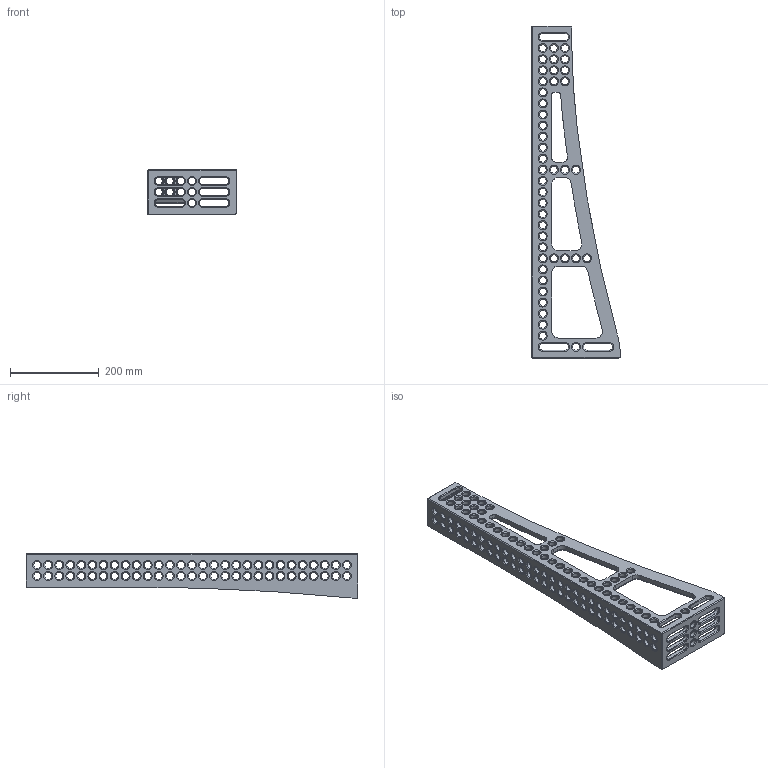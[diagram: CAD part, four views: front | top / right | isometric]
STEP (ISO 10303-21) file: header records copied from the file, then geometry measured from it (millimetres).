
FILE_DESCRIPTION (( 'STEP AP203' ), '1' );
FILE_NAME ('160146.STEP', '2020-07-07T14:31:11', ( '' ), ( '' ), 'SwSTEP 2.0', 'SolidWorks 2019', '' );
FILE_SCHEMA (( 'CONFIG_CONTROL_DESIGN' ));
Length unit declared in the file: millimetre
Products named in the file (1): 160146
Bounding box: 200 x 750 x 100 mm (x, y, z)
Volume: 1339189.3 mm3; surface area: 335929.4 mm2
Topology: 1 solids, 1 shells, 1317 faces, 3194 edges, 1905 vertices
Faces by surface type: cylinder 594, torus 297, cone 221, plane 192, bspline 9, sphere 4
Entity records: 40687 total; most frequent: CARTESIAN_POINT 8310, DIRECTION 7598, ORIENTED_EDGE 6384, AXIS2_PLACEMENT_3D 3277, EDGE_CURVE 3192, CIRCLE 1968, VERTEX_POINT 1905, EDGE_LOOP 1589
